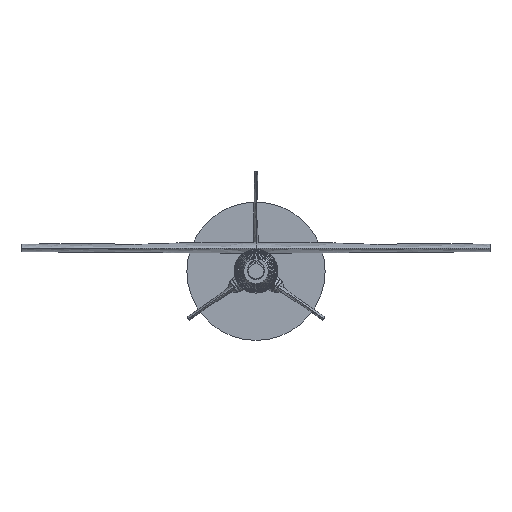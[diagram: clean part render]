
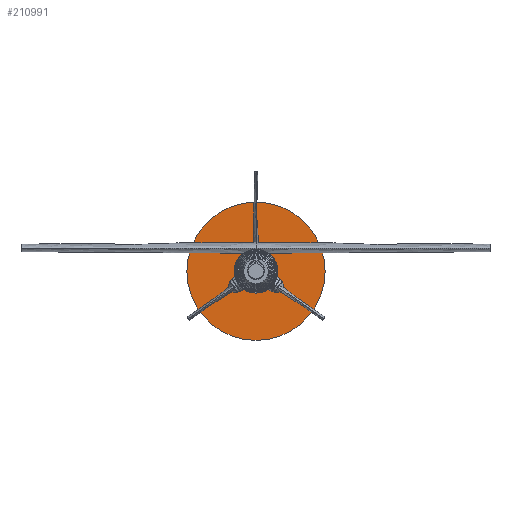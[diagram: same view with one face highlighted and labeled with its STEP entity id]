
A CAD part, left-side view. The second image highlights one B-rep face of the part: STEP entity #210991.
In plain terms, the highlighted planar face has unit normal (-1, 0, 0).
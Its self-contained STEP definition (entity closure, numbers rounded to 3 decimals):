
#210913 = CYLINDRICAL_SURFACE('',#210914,63.5);
#210914 = AXIS2_PLACEMENT_3D('',#210915,#210916,#210917);
#210915 = CARTESIAN_POINT('',(470.85,0.,0.));
#210916 = DIRECTION('',(1.,0.,0.));
#210917 = DIRECTION('',(-0.,0.,1.));
#210938 = VERTEX_POINT('',#210939);
#210939 = CARTESIAN_POINT('',(470.85,0.,63.5));
#210960 = EDGE_CURVE('',#210938,#210938,#210961,.T.);
#210961 = SURFACE_CURVE('',#210962,(#210967,#210974),.PCURVE_S1.);
#210962 = CIRCLE('',#210963,63.5);
#210963 = AXIS2_PLACEMENT_3D('',#210964,#210965,#210966);
#210964 = CARTESIAN_POINT('',(470.85,0.,0.));
#210965 = DIRECTION('',(1.,0.,0.));
#210966 = DIRECTION('',(-0.,0.,1.));
#210967 = PCURVE('',#210913,#210968);
#210968 = DEFINITIONAL_REPRESENTATION('',(#210969),#210973);
#210969 = LINE('',#210970,#210971);
#210970 = CARTESIAN_POINT('',(0.,0.));
#210971 = VECTOR('',#210972,1.);
#210972 = DIRECTION('',(1.,0.));
#210973 = ( GEOMETRIC_REPRESENTATION_CONTEXT(2) 
PARAMETRIC_REPRESENTATION_CONTEXT() REPRESENTATION_CONTEXT('2D SPACE',''
  ) );
#210974 = PCURVE('',#210975,#210980);
#210975 = PLANE('',#210976);
#210976 = AXIS2_PLACEMENT_3D('',#210977,#210978,#210979);
#210977 = CARTESIAN_POINT('',(470.85,0.,0.));
#210978 = DIRECTION('',(1.,0.,0.));
#210979 = DIRECTION('',(-0.,0.,1.));
#210980 = DEFINITIONAL_REPRESENTATION('',(#210981),#210985);
#210981 = CIRCLE('',#210982,63.5);
#210982 = AXIS2_PLACEMENT_2D('',#210983,#210984);
#210983 = CARTESIAN_POINT('',(0.,0.));
#210984 = DIRECTION('',(1.,0.));
#210985 = ( GEOMETRIC_REPRESENTATION_CONTEXT(2) 
PARAMETRIC_REPRESENTATION_CONTEXT() REPRESENTATION_CONTEXT('2D SPACE',''
  ) );
#210991 = ADVANCED_FACE('',(#210992),#210975,.F.);
#210992 = FACE_BOUND('',#210993,.T.);
#210993 = EDGE_LOOP('',(#210994));
#210994 = ORIENTED_EDGE('',*,*,#210960,.F.);
